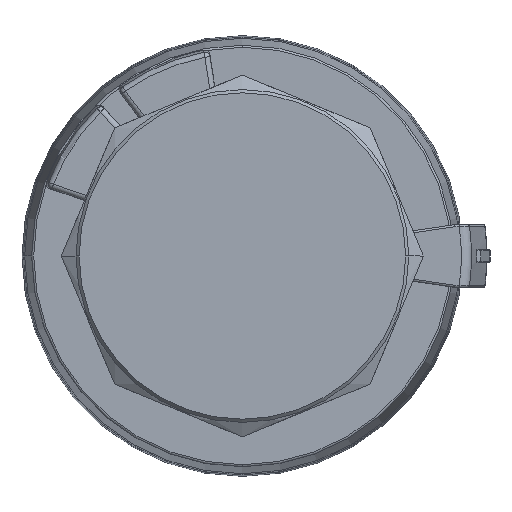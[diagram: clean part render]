
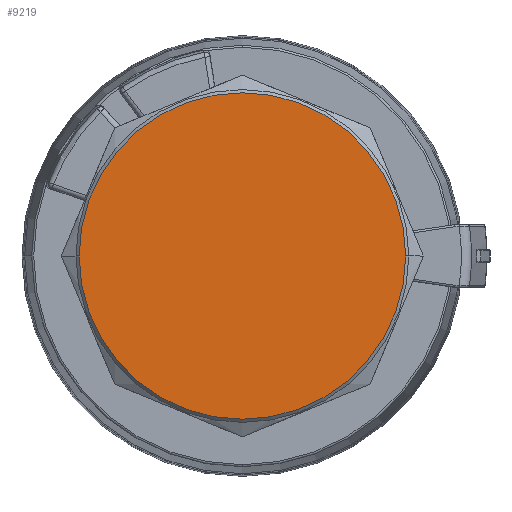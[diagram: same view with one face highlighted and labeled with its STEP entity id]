
A CAD part, front view. The second image highlights one B-rep face of the part: STEP entity #9219.
In plain terms, the highlighted planar face has unit normal (0, -1, 0).
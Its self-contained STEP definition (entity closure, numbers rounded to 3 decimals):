
#2580 = CARTESIAN_POINT ( 'NONE',  ( 0., -4.6, 0. ) ) ;
#3649 = CARTESIAN_POINT ( 'NONE',  ( 0., -4.6, 0. ) ) ;
#3787 = EDGE_CURVE ( 'NONE', #15876, #7889, #9768, .T. ) ;
#5406 = FACE_OUTER_BOUND ( 'NONE', #12243, .T. ) ;
#6852 = CARTESIAN_POINT ( 'NONE',  ( 20.905, -4.6, -8.659 ) ) ;
#6997 = AXIS2_PLACEMENT_3D ( 'NONE', #2580, #13610, #13708 ) ;
#7889 = VERTEX_POINT ( 'NONE', #14250 ) ;
#9060 = PLANE ( 'NONE',  #24521 ) ;
#9219 = ADVANCED_FACE ( 'NONE', ( #5406 ), #9060, .F. ) ;
#9768 = CIRCLE ( 'NONE', #28246, 15.625 ) ;
#9964 = ORIENTED_EDGE ( 'NONE', *, *, #28569, .F. ) ;
#10368 = DIRECTION ( 'NONE',  ( -1., 0., 0. ) ) ;
#11491 = CARTESIAN_POINT ( 'NONE',  ( 15.625, -4.6, 0. ) ) ;
#12243 = EDGE_LOOP ( 'NONE', ( #9964, #28043 ) ) ;
#13610 = DIRECTION ( 'NONE',  ( 0., 1., 0. ) ) ;
#13708 = DIRECTION ( 'NONE',  ( -1., 0., 0. ) ) ;
#14250 = CARTESIAN_POINT ( 'NONE',  ( -15.625, -4.6, 0. ) ) ;
#15876 = VERTEX_POINT ( 'NONE', #11491 ) ;
#18512 = CIRCLE ( 'NONE', #6997, 15.625 ) ;
#20066 = DIRECTION ( 'NONE',  ( 0., 0., 1. ) ) ;
#20162 = DIRECTION ( 'NONE',  ( 0., 1., 0. ) ) ;
#24521 = AXIS2_PLACEMENT_3D ( 'NONE', #6852, #20162, #20066 ) ;
#27757 = DIRECTION ( 'NONE',  ( 0., 1., 0. ) ) ;
#28043 = ORIENTED_EDGE ( 'NONE', *, *, #3787, .F. ) ;
#28246 = AXIS2_PLACEMENT_3D ( 'NONE', #3649, #27757, #10368 ) ;
#28569 = EDGE_CURVE ( 'NONE', #7889, #15876, #18512, .T. ) ;
